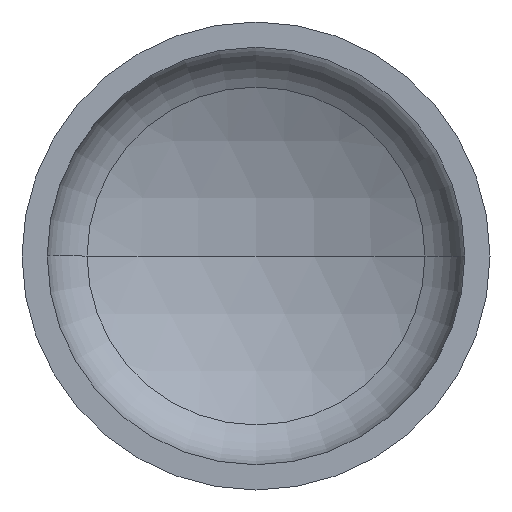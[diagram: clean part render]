
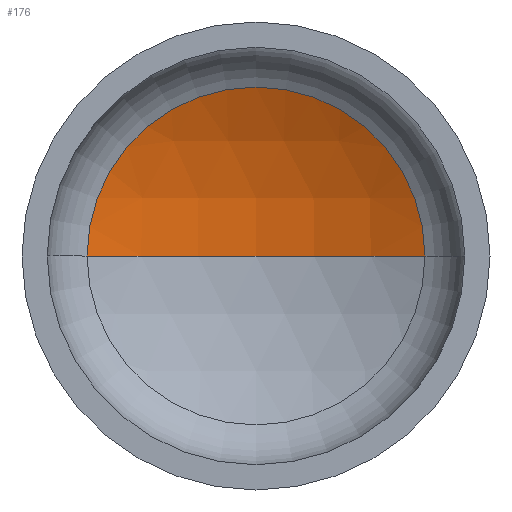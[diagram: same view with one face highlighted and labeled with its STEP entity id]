
A CAD part, front view. The second image highlights one B-rep face of the part: STEP entity #176.
In plain terms, the highlighted spherical face has radius 800 mm.
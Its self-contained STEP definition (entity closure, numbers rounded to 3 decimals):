
#9 = ORIENTED_EDGE ( 'NONE', *, *, #161, .T. ) ;
#27 = CARTESIAN_POINT ( 'NONE',  ( 0., -455.625, 0. ) ) ;
#33 = EDGE_LOOP ( 'NONE', ( #73, #67, #9 ) ) ;
#40 = AXIS2_PLACEMENT_3D ( 'NONE', #207, #247, #261 ) ;
#51 = AXIS2_PLACEMENT_3D ( 'NONE', #246, #244, #263 ) ;
#53 = AXIS2_PLACEMENT_3D ( 'NONE', #194, #212, #210 ) ;
#55 = VERTEX_POINT ( 'NONE', #219 ) ;
#67 = ORIENTED_EDGE ( 'NONE', *, *, #167, .T. ) ;
#73 = ORIENTED_EDGE ( 'NONE', *, *, #351, .F. ) ;
#81 = CIRCLE ( 'NONE', #51, 800. ) ;
#114 = VERTEX_POINT ( 'NONE', #345 ) ;
#147 = VERTEX_POINT ( 'NONE', #331 ) ;
#161 = EDGE_CURVE ( 'NONE', #114, #147, #380, .T. ) ;
#162 = DIRECTION ( 'NONE',  ( 0., 0., 1. ) ) ;
#167 = EDGE_CURVE ( 'NONE', #55, #114, #81, .T. ) ;
#176 = ADVANCED_FACE ( 'NONE', ( #320 ), #200, .F. ) ;
#194 = CARTESIAN_POINT ( 'NONE',  ( 0., 258.328, 0. ) ) ;
#200 = SPHERICAL_SURFACE ( 'NONE', #40, 800. ) ;
#207 = CARTESIAN_POINT ( 'NONE',  ( 0., -455.625, 0. ) ) ;
#210 = DIRECTION ( 'NONE',  ( 1., 0., 0. ) ) ;
#212 = DIRECTION ( 'NONE',  ( 0., -1., 0. ) ) ;
#219 = CARTESIAN_POINT ( 'NONE',  ( 0., 344.375, 0. ) ) ;
#244 = DIRECTION ( 'NONE',  ( 0., 0., -1. ) ) ;
#246 = CARTESIAN_POINT ( 'NONE',  ( 0., -455.625, 0. ) ) ;
#247 = DIRECTION ( 'NONE',  ( 0., 0., -1. ) ) ;
#261 = DIRECTION ( 'NONE',  ( -1., 0., 0. ) ) ;
#263 = DIRECTION ( 'NONE',  ( -1., 0., 0. ) ) ;
#264 = DIRECTION ( 'NONE',  ( 1., 0., 0. ) ) ;
#291 = CIRCLE ( 'NONE', #327, 800. ) ;
#320 = FACE_OUTER_BOUND ( 'NONE', #33, .T. ) ;
#327 = AXIS2_PLACEMENT_3D ( 'NONE', #27, #162, #264 ) ;
#331 = CARTESIAN_POINT ( 'NONE',  ( -360.93, 258.328, 0. ) ) ;
#345 = CARTESIAN_POINT ( 'NONE',  ( 360.93, 258.328, 0. ) ) ;
#351 = EDGE_CURVE ( 'NONE', #55, #147, #291, .T. ) ;
#380 = CIRCLE ( 'NONE', #53, 360.93 ) ;
